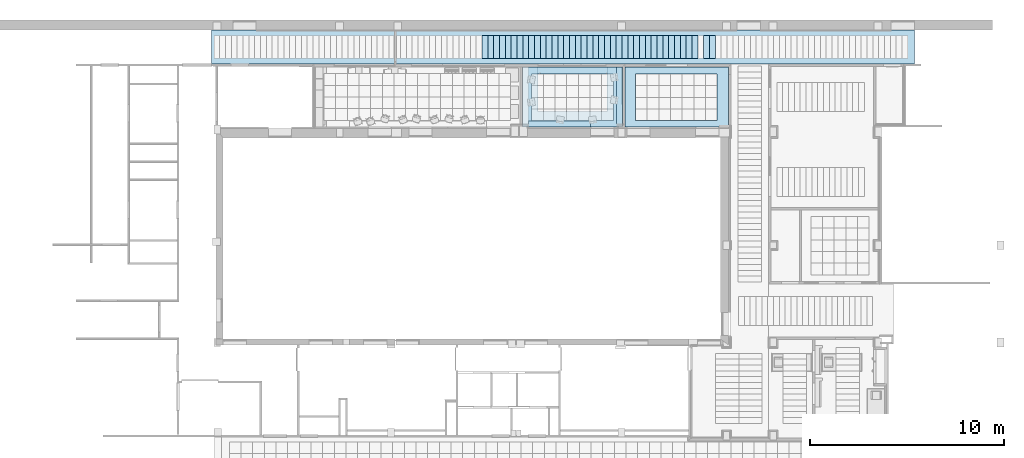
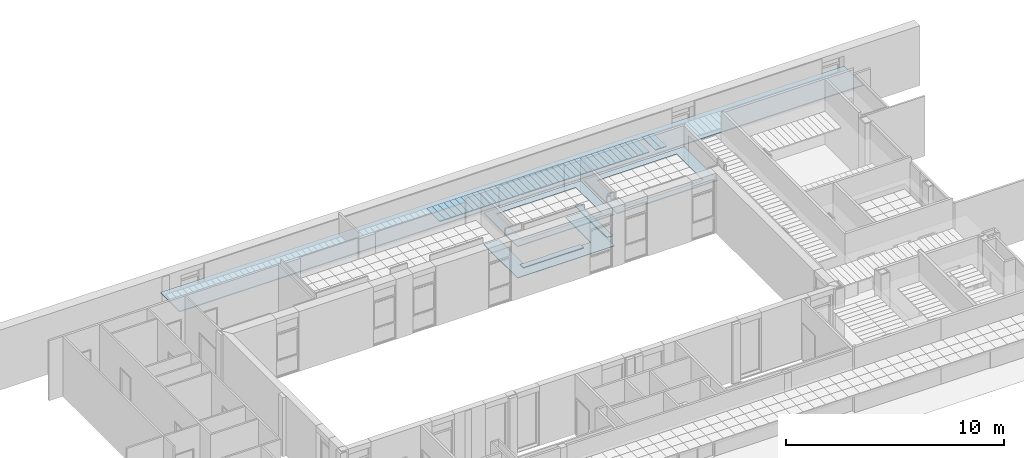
# One storey, part 9 of 60: 45 slabs.
"""IFC2X3 building model written with IfcOpenShell, lengths in millimetres."""

from ifc_helpers import new_model, entity, si_unit, converted_unit, derived_unit, money_unit, direction, frame, origin_with_axes, place, context, subcontext, project, spatial, polyline, outline, extrude, material, layer, layer_set, layer_usage, type_object, element, save


model = new_model("IFC2X3")

# Units and contexts
model_context = context("Model", 3, precision=0.01, world=origin_with_axes(), true_north=direction((0.0, 1.0)))
body_context = subcontext(model_context, "Body", "Model", "MODEL_VIEW")
ifc_project = project(units=[si_unit("LENGTHUNIT", "METRE", prefix="MILLI"), si_unit("AREAUNIT", "SQUARE_METRE"), si_unit("VOLUMEUNIT", "CUBIC_METRE"), converted_unit("PLANEANGLEUNIT", "DEGREE", entity("IfcPlaneAngleMeasure", 0.0174532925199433), si_unit("PLANEANGLEUNIT", "RADIAN"), dimensions=[0, 0, 0, 0, 0, 0, 0]), money_unit("USD"), converted_unit("TIMEUNIT", "Year", entity("IfcTimeMeasure", 31557600.0), si_unit("TIMEUNIT", "SECOND"), dimensions=[0, 0, 1, 0, 0, 0, 0]), si_unit("MASSUNIT", "GRAM", prefix="KILO"), si_unit("THERMODYNAMICTEMPERATUREUNIT", "DEGREE_CELSIUS"), si_unit("LUMINOUSINTENSITYUNIT", "LUMEN"), si_unit("ENERGYUNIT", "JOULE", prefix="MEGA"), derived_unit("THERMALCONDUCTANCEUNIT", [(si_unit("POWERUNIT", "WATT"), 1), (si_unit("LENGTHUNIT", "METRE"), -1), (si_unit("THERMODYNAMICTEMPERATUREUNIT", "KELVIN"), -1)]), derived_unit("SPECIFICHEATCAPACITYUNIT", [(si_unit("ENERGYUNIT", "JOULE"), 1), (si_unit("MASSUNIT", "GRAM", prefix="KILO"), -1), (si_unit("THERMODYNAMICTEMPERATUREUNIT", "KELVIN"), -1)]), derived_unit("MASSDENSITYUNIT", [(si_unit("MASSUNIT", "GRAM", prefix="KILO"), 1), (si_unit("VOLUMEUNIT", "CUBIC_METRE"), -1)])], contexts=[model_context])

# Site, building, storey
site_placement = place(None, origin_with_axes())
site = spatial("IfcSite", under=ifc_project, at=site_placement, Name="Sitio", CompositionType="ELEMENT")
building_placement = place(site_placement, origin_with_axes())
building = spatial("IfcBuilding", under=site, at=building_placement, Name="Construcción", CompositionType="ELEMENT")
storey_placement = place(building_placement, frame((0.0, 0.0, 3650.0), z_axis=(0.0, 0.0, 1.0), x_axis=(1.0, 0.0, 0.0)))
storey = spatial("IfcBuildingStorey", under=building, at=storey_placement, Name="PLANTA 2ª", CompositionType="ELEMENT", Elevation=3650.0)

# Slabs
ifc_material_1 = material(Name="ARQ_ME126_CelRas_Placa_Metallica")
ifc_layer_1 = layer(ifc_material_1, 50.0, ventilated="UNKNOWN")
ifc_layer_set_1 = layer_set([ifc_layer_1], Name="ARQ_ME126_CelRas_Placa_Metallica 50")
ifc_layer_usage_1 = layer_usage(ifc_layer_set_1, "AXIS3", "NEGATIVE", 50.0)
slab_type_1 = type_object("IfcSlabType", Name="ARQ_ME126_CelRas_Placa_Metallica 50", PredefinedType="NOTDEFINED")
slab_1_placement = place(storey_placement, frame((-2670.237082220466, 3586.50452866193, 2500.0), z_axis=(0.0, 0.0, 1.0), x_axis=(1.0, 0.0, 0.0)))
element("IfcSlab", 1, at=slab_1_placement, inside=storey, type_object=slab_type_1, material=ifc_layer_usage_1, Name="SLA - 026", PredefinedType="NOTDEFINED", context=body_context, shape_type="SweptSolid", body=[
    extrude(outline(polyline([(0.0, 0.0), (0.0, -1199.999999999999), (300.0000000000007, -1199.999999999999), (300.0000000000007, 0.0), (0.0, 0.0)])), frame((0.0, 0.0, -50.0), z_axis=(0.0, 0.0, 1.0), x_axis=(1.0, 0.0, 0.0)), (0.0, 0.0, 1.0), 50.0),
])
ifc_layer_usage_2 = layer_usage(ifc_layer_set_1, "AXIS3", "NEGATIVE", 50.0)
slab_2_placement = place(storey_placement, frame((-3570.237082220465, 3586.50452866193, 2500.0), z_axis=(0.0, 0.0, 1.0), x_axis=(1.0, 0.0, 0.0)))
element("IfcSlab", 2, at=slab_2_placement, inside=storey, type_object=slab_type_1, material=ifc_layer_usage_2, Name="SLA - 026", PredefinedType="NOTDEFINED", context=body_context, shape_type="SweptSolid", body=[
    extrude(outline(polyline([(0.0, 0.0), (0.0, -1199.999999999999), (300.0000000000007, -1199.999999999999), (300.0000000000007, 0.0), (0.0, 0.0)])), frame((0.0, 0.0, -50.0), z_axis=(0.0, 0.0, 1.0), x_axis=(1.0, 0.0, 0.0)), (0.0, 0.0, 1.0), 50.0),
])
ifc_layer_usage_3 = layer_usage(ifc_layer_set_1, "AXIS3", "NEGATIVE", 50.0)
slab_3_placement = place(storey_placement, frame((-2970.237082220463, 3586.50452866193, 2500.0), z_axis=(0.0, 0.0, 1.0), x_axis=(1.0, 0.0, 0.0)))
element("IfcSlab", 3, at=slab_3_placement, inside=storey, type_object=slab_type_1, material=ifc_layer_usage_3, Name="SLA - 026", PredefinedType="NOTDEFINED", context=body_context, shape_type="SweptSolid", body=[
    extrude(outline(polyline([(0.0, 0.0), (0.0, -1199.999999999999), (300.0000000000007, -1199.999999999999), (300.0000000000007, 0.0), (0.0, 0.0)])), frame((0.0, 0.0, -50.0), z_axis=(0.0, 0.0, 1.0), x_axis=(1.0, 0.0, 0.0)), (0.0, 0.0, 1.0), 50.0),
])
ifc_layer_usage_4 = layer_usage(ifc_layer_set_1, "AXIS3", "NEGATIVE", 50.0)
slab_4_placement = place(storey_placement, frame((-3870.237082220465, 3586.50452866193, 2500.0), z_axis=(0.0, 0.0, 1.0), x_axis=(1.0, 0.0, 0.0)))
element("IfcSlab", 4, at=slab_4_placement, inside=storey, type_object=slab_type_1, material=ifc_layer_usage_4, Name="SLA - 026", PredefinedType="NOTDEFINED", context=body_context, shape_type="SweptSolid", body=[
    extrude(outline(polyline([(0.0, 0.0), (0.0, -1199.999999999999), (300.0000000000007, -1199.999999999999), (300.0000000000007, 0.0), (0.0, 0.0)])), frame((0.0, 0.0, -50.0), z_axis=(0.0, 0.0, 1.0), x_axis=(1.0, 0.0, 0.0)), (0.0, 0.0, 1.0), 50.0),
])
ifc_layer_usage_5 = layer_usage(ifc_layer_set_1, "AXIS3", "NEGATIVE", 50.0)
slab_5_placement = place(storey_placement, frame((-14370.23708222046, 3586.50452866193, 2500.0), z_axis=(0.0, 0.0, 1.0), x_axis=(1.0, 0.0, 0.0)))
element("IfcSlab", 5, at=slab_5_placement, inside=storey, type_object=slab_type_1, material=ifc_layer_usage_5, Name="SLA - 026", PredefinedType="NOTDEFINED", context=body_context, shape_type="SweptSolid", body=[
    extrude(outline(polyline([(0.0, 0.0), (0.0, -1199.999999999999), (300.0000000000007, -1199.999999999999), (300.0000000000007, 0.0), (0.0, 0.0)])), frame((0.0, 0.0, -50.0), z_axis=(0.0, 0.0, 1.0), x_axis=(1.0, 0.0, 0.0)), (0.0, 0.0, 1.0), 50.0),
])
ifc_layer_usage_6 = layer_usage(ifc_layer_set_1, "AXIS3", "NEGATIVE", 50.0)
slab_6_placement = place(storey_placement, frame((-14070.23708222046, 3586.50452866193, 2500.0), z_axis=(0.0, 0.0, 1.0), x_axis=(1.0, 0.0, 0.0)))
element("IfcSlab", 6, at=slab_6_placement, inside=storey, type_object=slab_type_1, material=ifc_layer_usage_6, Name="SLA - 026", PredefinedType="NOTDEFINED", context=body_context, shape_type="SweptSolid", body=[
    extrude(outline(polyline([(0.0, 0.0), (0.0, -1199.999999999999), (300.0000000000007, -1199.999999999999), (300.0000000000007, 0.0), (0.0, 0.0)])), frame((0.0, 0.0, -50.0), z_axis=(0.0, 0.0, 1.0), x_axis=(1.0, 0.0, 0.0)), (0.0, 0.0, 1.0), 50.0),
])
ifc_layer_usage_7 = layer_usage(ifc_layer_set_1, "AXIS3", "NEGATIVE", 50.0)
slab_7_placement = place(storey_placement, frame((-13770.23708222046, 3586.50452866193, 2500.0), z_axis=(0.0, 0.0, 1.0), x_axis=(1.0, 0.0, 0.0)))
element("IfcSlab", 7, at=slab_7_placement, inside=storey, type_object=slab_type_1, material=ifc_layer_usage_7, Name="SLA - 026", PredefinedType="NOTDEFINED", context=body_context, shape_type="SweptSolid", body=[
    extrude(outline(polyline([(0.0, 0.0), (0.0, -1199.999999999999), (300.0000000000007, -1199.999999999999), (300.0000000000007, 0.0), (0.0, 0.0)])), frame((0.0, 0.0, -50.0), z_axis=(0.0, 0.0, 1.0), x_axis=(1.0, 0.0, 0.0)), (0.0, 0.0, 1.0), 50.0),
])
ifc_layer_usage_8 = layer_usage(ifc_layer_set_1, "AXIS3", "NEGATIVE", 50.0)
slab_8_placement = place(storey_placement, frame((-13470.23708222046, 3586.50452866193, 2500.0), z_axis=(0.0, 0.0, 1.0), x_axis=(1.0, 0.0, 0.0)))
element("IfcSlab", 8, at=slab_8_placement, inside=storey, type_object=slab_type_1, material=ifc_layer_usage_8, Name="SLA - 026", PredefinedType="NOTDEFINED", context=body_context, shape_type="SweptSolid", body=[
    extrude(outline(polyline([(0.0, 0.0), (0.0, -1199.999999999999), (300.0000000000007, -1199.999999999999), (300.0000000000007, 0.0), (0.0, 0.0)])), frame((0.0, 0.0, -50.0), z_axis=(0.0, 0.0, 1.0), x_axis=(1.0, 0.0, 0.0)), (0.0, 0.0, 1.0), 50.0),
])
ifc_layer_usage_9 = layer_usage(ifc_layer_set_1, "AXIS3", "NEGATIVE", 50.0)
slab_9_placement = place(storey_placement, frame((-13170.23708222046, 3586.50452866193, 2500.0), z_axis=(0.0, 0.0, 1.0), x_axis=(1.0, 0.0, 0.0)))
element("IfcSlab", 9, at=slab_9_placement, inside=storey, type_object=slab_type_1, material=ifc_layer_usage_9, Name="SLA - 026", PredefinedType="NOTDEFINED", context=body_context, shape_type="SweptSolid", body=[
    extrude(outline(polyline([(0.0, 0.0), (0.0, -1199.999999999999), (300.0000000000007, -1199.999999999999), (300.0000000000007, 0.0), (0.0, 0.0)])), frame((0.0, 0.0, -50.0), z_axis=(0.0, 0.0, 1.0), x_axis=(1.0, 0.0, 0.0)), (0.0, 0.0, 1.0), 50.0),
])
ifc_layer_usage_10 = layer_usage(ifc_layer_set_1, "AXIS3", "NEGATIVE", 50.0)
slab_10_placement = place(storey_placement, frame((-12870.23708222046, 3586.50452866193, 2500.0), z_axis=(0.0, 0.0, 1.0), x_axis=(1.0, 0.0, 0.0)))
element("IfcSlab", 10, at=slab_10_placement, inside=storey, type_object=slab_type_1, material=ifc_layer_usage_10, Name="SLA - 026", PredefinedType="NOTDEFINED", context=body_context, shape_type="SweptSolid", body=[
    extrude(outline(polyline([(0.0, 0.0), (0.0, -1199.999999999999), (300.0000000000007, -1199.999999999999), (300.0000000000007, 0.0), (0.0, 0.0)])), frame((0.0, 0.0, -50.0), z_axis=(0.0, 0.0, 1.0), x_axis=(1.0, 0.0, 0.0)), (0.0, 0.0, 1.0), 50.0),
])
ifc_layer_usage_11 = layer_usage(ifc_layer_set_1, "AXIS3", "NEGATIVE", 50.0)
slab_11_placement = place(storey_placement, frame((-12570.23708222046, 3586.50452866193, 2500.0), z_axis=(0.0, 0.0, 1.0), x_axis=(1.0, 0.0, 0.0)))
element("IfcSlab", 11, at=slab_11_placement, inside=storey, type_object=slab_type_1, material=ifc_layer_usage_11, Name="SLA - 026", PredefinedType="NOTDEFINED", context=body_context, shape_type="SweptSolid", body=[
    extrude(outline(polyline([(0.0, 0.0), (0.0, -1199.999999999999), (300.0000000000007, -1199.999999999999), (300.0000000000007, 0.0), (0.0, 0.0)])), frame((0.0, 0.0, -50.0), z_axis=(0.0, 0.0, 1.0), x_axis=(1.0, 0.0, 0.0)), (0.0, 0.0, 1.0), 50.0),
])
ifc_layer_usage_12 = layer_usage(ifc_layer_set_1, "AXIS3", "NEGATIVE", 50.0)
slab_12_placement = place(storey_placement, frame((-12270.23708222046, 3586.50452866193, 2500.0), z_axis=(0.0, 0.0, 1.0), x_axis=(1.0, 0.0, 0.0)))
element("IfcSlab", 12, at=slab_12_placement, inside=storey, type_object=slab_type_1, material=ifc_layer_usage_12, Name="SLA - 026", PredefinedType="NOTDEFINED", context=body_context, shape_type="SweptSolid", body=[
    extrude(outline(polyline([(0.0, 0.0), (0.0, -1199.999999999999), (300.0000000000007, -1199.999999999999), (300.0000000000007, 0.0), (0.0, 0.0)])), frame((0.0, 0.0, -50.0), z_axis=(0.0, 0.0, 1.0), x_axis=(1.0, 0.0, 0.0)), (0.0, 0.0, 1.0), 50.0),
])
ifc_layer_usage_13 = layer_usage(ifc_layer_set_1, "AXIS3", "NEGATIVE", 50.0)
slab_13_placement = place(storey_placement, frame((-11970.23708222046, 3586.50452866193, 2500.0), z_axis=(0.0, 0.0, 1.0), x_axis=(1.0, 0.0, 0.0)))
element("IfcSlab", 13, at=slab_13_placement, inside=storey, type_object=slab_type_1, material=ifc_layer_usage_13, Name="SLA - 026", PredefinedType="NOTDEFINED", context=body_context, shape_type="SweptSolid", body=[
    extrude(outline(polyline([(0.0, 0.0), (0.0, -1199.999999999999), (300.0000000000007, -1199.999999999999), (300.0000000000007, 0.0), (0.0, 0.0)])), frame((0.0, 0.0, -50.0), z_axis=(0.0, 0.0, 1.0), x_axis=(1.0, 0.0, 0.0)), (0.0, 0.0, 1.0), 50.0),
])
ifc_layer_usage_14 = layer_usage(ifc_layer_set_1, "AXIS3", "NEGATIVE", 50.0)
slab_14_placement = place(storey_placement, frame((-11670.23708222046, 3586.50452866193, 2500.0), z_axis=(0.0, 0.0, 1.0), x_axis=(1.0, 0.0, 0.0)))
element("IfcSlab", 14, at=slab_14_placement, inside=storey, type_object=slab_type_1, material=ifc_layer_usage_14, Name="SLA - 026", PredefinedType="NOTDEFINED", context=body_context, shape_type="SweptSolid", body=[
    extrude(outline(polyline([(0.0, 0.0), (0.0, -1199.999999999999), (300.0000000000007, -1199.999999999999), (300.0000000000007, 0.0), (0.0, 0.0)])), frame((0.0, 0.0, -50.0), z_axis=(0.0, 0.0, 1.0), x_axis=(1.0, 0.0, 0.0)), (0.0, 0.0, 1.0), 50.0),
])
ifc_layer_usage_15 = layer_usage(ifc_layer_set_1, "AXIS3", "NEGATIVE", 50.0)
slab_15_placement = place(storey_placement, frame((-11070.23708222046, 3586.50452866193, 2500.0), z_axis=(0.0, 0.0, 1.0), x_axis=(1.0, 0.0, 0.0)))
element("IfcSlab", 15, at=slab_15_placement, inside=storey, type_object=slab_type_1, material=ifc_layer_usage_15, Name="SLA - 026", PredefinedType="NOTDEFINED", context=body_context, shape_type="SweptSolid", body=[
    extrude(outline(polyline([(0.0, 0.0), (0.0, -1199.999999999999), (300.0000000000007, -1199.999999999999), (300.0000000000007, 0.0), (0.0, 0.0)])), frame((0.0, 0.0, -50.0), z_axis=(0.0, 0.0, 1.0), x_axis=(1.0, 0.0, 0.0)), (0.0, 0.0, 1.0), 50.0),
])
ifc_layer_usage_16 = layer_usage(ifc_layer_set_1, "AXIS3", "NEGATIVE", 50.0)
slab_16_placement = place(storey_placement, frame((-11370.23708222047, 3586.50452866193, 2500.0), z_axis=(0.0, 0.0, 1.0), x_axis=(1.0, 0.0, 0.0)))
element("IfcSlab", 16, at=slab_16_placement, inside=storey, type_object=slab_type_1, material=ifc_layer_usage_16, Name="SLA - 026", PredefinedType="NOTDEFINED", context=body_context, shape_type="SweptSolid", body=[
    extrude(outline(polyline([(0.0, 0.0), (0.0, -1199.999999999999), (300.0000000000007, -1199.999999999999), (300.0000000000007, 0.0), (0.0, 0.0)])), frame((0.0, 0.0, -50.0), z_axis=(0.0, 0.0, 1.0), x_axis=(1.0, 0.0, 0.0)), (0.0, 0.0, 1.0), 50.0),
])
ifc_layer_usage_17 = layer_usage(ifc_layer_set_1, "AXIS3", "NEGATIVE", 50.0)
slab_17_placement = place(storey_placement, frame((-10770.23708222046, 3586.50452866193, 2500.0), z_axis=(0.0, 0.0, 1.0), x_axis=(1.0, 0.0, 0.0)))
element("IfcSlab", 17, at=slab_17_placement, inside=storey, type_object=slab_type_1, material=ifc_layer_usage_17, Name="SLA - 026", PredefinedType="NOTDEFINED", context=body_context, shape_type="SweptSolid", body=[
    extrude(outline(polyline([(0.0, 0.0), (0.0, -1199.999999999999), (300.0000000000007, -1199.999999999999), (300.0000000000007, 0.0), (0.0, 0.0)])), frame((0.0, 0.0, -50.0), z_axis=(0.0, 0.0, 1.0), x_axis=(1.0, 0.0, 0.0)), (0.0, 0.0, 1.0), 50.0),
])
ifc_layer_usage_18 = layer_usage(ifc_layer_set_1, "AXIS3", "NEGATIVE", 50.0)
slab_18_placement = place(storey_placement, frame((-10170.23708222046, 3586.50452866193, 2500.0), z_axis=(0.0, 0.0, 1.0), x_axis=(1.0, 0.0, 0.0)))
element("IfcSlab", 18, at=slab_18_placement, inside=storey, type_object=slab_type_1, material=ifc_layer_usage_18, Name="SLA - 026", PredefinedType="NOTDEFINED", context=body_context, shape_type="SweptSolid", body=[
    extrude(outline(polyline([(0.0, 0.0), (0.0, -1199.999999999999), (300.0000000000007, -1199.999999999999), (300.0000000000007, 0.0), (0.0, 0.0)])), frame((0.0, 0.0, -50.0), z_axis=(0.0, 0.0, 1.0), x_axis=(1.0, 0.0, 0.0)), (0.0, 0.0, 1.0), 50.0),
])
ifc_layer_usage_19 = layer_usage(ifc_layer_set_1, "AXIS3", "NEGATIVE", 50.0)
slab_19_placement = place(storey_placement, frame((-10470.23708222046, 3586.50452866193, 2500.0), z_axis=(0.0, 0.0, 1.0), x_axis=(1.0, 0.0, 0.0)))
element("IfcSlab", 19, at=slab_19_placement, inside=storey, type_object=slab_type_1, material=ifc_layer_usage_19, Name="SLA - 026", PredefinedType="NOTDEFINED", context=body_context, shape_type="SweptSolid", body=[
    extrude(outline(polyline([(0.0, 0.0), (0.0, -1199.999999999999), (300.0000000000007, -1199.999999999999), (300.0000000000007, 0.0), (0.0, 0.0)])), frame((0.0, 0.0, -50.0), z_axis=(0.0, 0.0, 1.0), x_axis=(1.0, 0.0, 0.0)), (0.0, 0.0, 1.0), 50.0),
])
ifc_layer_usage_20 = layer_usage(ifc_layer_set_1, "AXIS3", "NEGATIVE", 50.0)
slab_20_placement = place(storey_placement, frame((-9870.237082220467, 3586.50452866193, 2500.0), z_axis=(0.0, 0.0, 1.0), x_axis=(1.0, 0.0, 0.0)))
element("IfcSlab", 20, at=slab_20_placement, inside=storey, type_object=slab_type_1, material=ifc_layer_usage_20, Name="SLA - 026", PredefinedType="NOTDEFINED", context=body_context, shape_type="SweptSolid", body=[
    extrude(outline(polyline([(0.0, 0.0), (0.0, -1199.999999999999), (300.0000000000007, -1199.999999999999), (300.0000000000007, 0.0), (0.0, 0.0)])), frame((0.0, 0.0, -50.0), z_axis=(0.0, 0.0, 1.0), x_axis=(1.0, 0.0, 0.0)), (0.0, 0.0, 1.0), 50.0),
])
ifc_layer_usage_21 = layer_usage(ifc_layer_set_1, "AXIS3", "NEGATIVE", 50.0)
slab_21_placement = place(storey_placement, frame((-9570.237082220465, 3586.50452866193, 2500.0), z_axis=(0.0, 0.0, 1.0), x_axis=(1.0, 0.0, 0.0)))
element("IfcSlab", 21, at=slab_21_placement, inside=storey, type_object=slab_type_1, material=ifc_layer_usage_21, Name="SLA - 026", PredefinedType="NOTDEFINED", context=body_context, shape_type="SweptSolid", body=[
    extrude(outline(polyline([(0.0, 0.0), (0.0, -1199.999999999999), (300.0000000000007, -1199.999999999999), (300.0000000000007, 0.0), (0.0, 0.0)])), frame((0.0, 0.0, -50.0), z_axis=(0.0, 0.0, 1.0), x_axis=(1.0, 0.0, 0.0)), (0.0, 0.0, 1.0), 50.0),
])
ifc_layer_usage_22 = layer_usage(ifc_layer_set_1, "AXIS3", "NEGATIVE", 50.0)
slab_22_placement = place(storey_placement, frame((-9270.237082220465, 3586.50452866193, 2500.0), z_axis=(0.0, 0.0, 1.0), x_axis=(1.0, 0.0, 0.0)))
element("IfcSlab", 22, at=slab_22_placement, inside=storey, type_object=slab_type_1, material=ifc_layer_usage_22, Name="SLA - 026", PredefinedType="NOTDEFINED", context=body_context, shape_type="SweptSolid", body=[
    extrude(outline(polyline([(0.0, 0.0), (0.0, -1199.999999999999), (300.0000000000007, -1199.999999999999), (300.0000000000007, 0.0), (0.0, 0.0)])), frame((0.0, 0.0, -50.0), z_axis=(0.0, 0.0, 1.0), x_axis=(1.0, 0.0, 0.0)), (0.0, 0.0, 1.0), 50.0),
])
ifc_layer_usage_23 = layer_usage(ifc_layer_set_1, "AXIS3", "NEGATIVE", 50.0)
slab_23_placement = place(storey_placement, frame((-8670.237082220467, 3586.50452866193, 2500.0), z_axis=(0.0, 0.0, 1.0), x_axis=(1.0, 0.0, 0.0)))
element("IfcSlab", 23, at=slab_23_placement, inside=storey, type_object=slab_type_1, material=ifc_layer_usage_23, Name="SLA - 026", PredefinedType="NOTDEFINED", context=body_context, shape_type="SweptSolid", body=[
    extrude(outline(polyline([(0.0, 0.0), (0.0, -1199.999999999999), (300.0000000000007, -1199.999999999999), (300.0000000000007, 0.0), (0.0, 0.0)])), frame((0.0, 0.0, -50.0), z_axis=(0.0, 0.0, 1.0), x_axis=(1.0, 0.0, 0.0)), (0.0, 0.0, 1.0), 50.0),
])
ifc_layer_usage_24 = layer_usage(ifc_layer_set_1, "AXIS3", "NEGATIVE", 50.0)
slab_24_placement = place(storey_placement, frame((-8970.237082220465, 3586.50452866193, 2500.0), z_axis=(0.0, 0.0, 1.0), x_axis=(1.0, 0.0, 0.0)))
element("IfcSlab", 24, at=slab_24_placement, inside=storey, type_object=slab_type_1, material=ifc_layer_usage_24, Name="SLA - 026", PredefinedType="NOTDEFINED", context=body_context, shape_type="SweptSolid", body=[
    extrude(outline(polyline([(0.0, 0.0), (0.0, -1199.999999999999), (300.0000000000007, -1199.999999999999), (300.0000000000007, 0.0), (0.0, 0.0)])), frame((0.0, 0.0, -50.0), z_axis=(0.0, 0.0, 1.0), x_axis=(1.0, 0.0, 0.0)), (0.0, 0.0, 1.0), 50.0),
])
ifc_layer_usage_25 = layer_usage(ifc_layer_set_1, "AXIS3", "NEGATIVE", 50.0)
slab_25_placement = place(storey_placement, frame((-8370.237082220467, 3586.50452866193, 2500.0), z_axis=(0.0, 0.0, 1.0), x_axis=(1.0, 0.0, 0.0)))
element("IfcSlab", 25, at=slab_25_placement, inside=storey, type_object=slab_type_1, material=ifc_layer_usage_25, Name="SLA - 026", PredefinedType="NOTDEFINED", context=body_context, shape_type="SweptSolid", body=[
    extrude(outline(polyline([(0.0, 0.0), (0.0, -1199.999999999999), (300.0000000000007, -1199.999999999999), (300.0000000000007, 0.0), (0.0, 0.0)])), frame((0.0, 0.0, -50.0), z_axis=(0.0, 0.0, 1.0), x_axis=(1.0, 0.0, 0.0)), (0.0, 0.0, 1.0), 50.0),
])
ifc_layer_usage_26 = layer_usage(ifc_layer_set_1, "AXIS3", "NEGATIVE", 50.0)
slab_26_placement = place(storey_placement, frame((-8070.237082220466, 3586.50452866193, 2500.0), z_axis=(0.0, 0.0, 1.0), x_axis=(1.0, 0.0, 0.0)))
element("IfcSlab", 26, at=slab_26_placement, inside=storey, type_object=slab_type_1, material=ifc_layer_usage_26, Name="SLA - 026", PredefinedType="NOTDEFINED", context=body_context, shape_type="SweptSolid", body=[
    extrude(outline(polyline([(0.0, 0.0), (0.0, -1199.999999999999), (300.0000000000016, -1199.999999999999), (300.0000000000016, 0.0), (0.0, 0.0)])), frame((0.0, 0.0, -50.0), z_axis=(0.0, 0.0, 1.0), x_axis=(1.0, 0.0, 0.0)), (0.0, 0.0, 1.0), 50.0),
])
ifc_layer_usage_27 = layer_usage(ifc_layer_set_1, "AXIS3", "NEGATIVE", 50.0)
slab_27_placement = place(storey_placement, frame((-7770.237082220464, 3586.50452866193, 2500.0), z_axis=(0.0, 0.0, 1.0), x_axis=(1.0, 0.0, 0.0)))
element("IfcSlab", 27, at=slab_27_placement, inside=storey, type_object=slab_type_1, material=ifc_layer_usage_27, Name="SLA - 026", PredefinedType="NOTDEFINED", context=body_context, shape_type="SweptSolid", body=[
    extrude(outline(polyline([(0.0, 0.0), (0.0, -1199.999999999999), (300.0000000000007, -1199.999999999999), (300.0000000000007, 0.0), (0.0, 0.0)])), frame((0.0, 0.0, -50.0), z_axis=(0.0, 0.0, 1.0), x_axis=(1.0, 0.0, 0.0)), (0.0, 0.0, 1.0), 50.0),
])
ifc_layer_usage_28 = layer_usage(ifc_layer_set_1, "AXIS3", "NEGATIVE", 50.0)
slab_28_placement = place(storey_placement, frame((-7470.237082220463, 3586.50452866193, 2500.0), z_axis=(0.0, 0.0, 1.0), x_axis=(1.0, 0.0, 0.0)))
element("IfcSlab", 28, at=slab_28_placement, inside=storey, type_object=slab_type_1, material=ifc_layer_usage_28, Name="SLA - 026", PredefinedType="NOTDEFINED", context=body_context, shape_type="SweptSolid", body=[
    extrude(outline(polyline([(0.0, 0.0), (0.0, -1199.999999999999), (300.0000000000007, -1199.999999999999), (300.0000000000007, 0.0), (0.0, 0.0)])), frame((0.0, 0.0, -50.0), z_axis=(0.0, 0.0, 1.0), x_axis=(1.0, 0.0, 0.0)), (0.0, 0.0, 1.0), 50.0),
])
ifc_layer_usage_29 = layer_usage(ifc_layer_set_1, "AXIS3", "NEGATIVE", 50.0)
slab_29_placement = place(storey_placement, frame((-7170.237082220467, 3586.50452866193, 2500.0), z_axis=(0.0, 0.0, 1.0), x_axis=(1.0, 0.0, 0.0)))
element("IfcSlab", 29, at=slab_29_placement, inside=storey, type_object=slab_type_1, material=ifc_layer_usage_29, Name="SLA - 026", PredefinedType="NOTDEFINED", context=body_context, shape_type="SweptSolid", body=[
    extrude(outline(polyline([(0.0, 0.0), (0.0, -1199.999999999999), (300.0000000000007, -1199.999999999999), (300.0000000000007, 0.0), (0.0, 0.0)])), frame((0.0, 0.0, -50.0), z_axis=(0.0, 0.0, 1.0), x_axis=(1.0, 0.0, 0.0)), (0.0, 0.0, 1.0), 50.0),
])
ifc_layer_usage_30 = layer_usage(ifc_layer_set_1, "AXIS3", "NEGATIVE", 50.0)
slab_30_placement = place(storey_placement, frame((-6870.237082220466, 3586.50452866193, 2500.0), z_axis=(0.0, 0.0, 1.0), x_axis=(1.0, 0.0, 0.0)))
element("IfcSlab", 30, at=slab_30_placement, inside=storey, type_object=slab_type_1, material=ifc_layer_usage_30, Name="SLA - 026", PredefinedType="NOTDEFINED", context=body_context, shape_type="SweptSolid", body=[
    extrude(outline(polyline([(0.0, 0.0), (0.0, -1199.999999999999), (300.0000000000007, -1199.999999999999), (300.0000000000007, 0.0), (0.0, 0.0)])), frame((0.0, 0.0, -50.0), z_axis=(0.0, 0.0, 1.0), x_axis=(1.0, 0.0, 0.0)), (0.0, 0.0, 1.0), 50.0),
])
ifc_layer_usage_31 = layer_usage(ifc_layer_set_1, "AXIS3", "NEGATIVE", 50.0)
slab_31_placement = place(storey_placement, frame((-6570.237082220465, 3586.50452866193, 2500.0), z_axis=(0.0, 0.0, 1.0), x_axis=(1.0, 0.0, 0.0)))
element("IfcSlab", 31, at=slab_31_placement, inside=storey, type_object=slab_type_1, material=ifc_layer_usage_31, Name="SLA - 026", PredefinedType="NOTDEFINED", context=body_context, shape_type="SweptSolid", body=[
    extrude(outline(polyline([(0.0, 0.0), (0.0, -1199.999999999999), (300.0000000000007, -1199.999999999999), (300.0000000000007, 0.0), (0.0, 0.0)])), frame((0.0, 0.0, -50.0), z_axis=(0.0, 0.0, 1.0), x_axis=(1.0, 0.0, 0.0)), (0.0, 0.0, 1.0), 50.0),
])
ifc_layer_usage_32 = layer_usage(ifc_layer_set_1, "AXIS3", "NEGATIVE", 50.0)
slab_32_placement = place(storey_placement, frame((-6270.237082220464, 3586.50452866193, 2500.0), z_axis=(0.0, 0.0, 1.0), x_axis=(1.0, 0.0, 0.0)))
element("IfcSlab", 32, at=slab_32_placement, inside=storey, type_object=slab_type_1, material=ifc_layer_usage_32, Name="SLA - 026", PredefinedType="NOTDEFINED", context=body_context, shape_type="SweptSolid", body=[
    extrude(outline(polyline([(0.0, 0.0), (0.0, -1199.999999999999), (300.0000000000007, -1199.999999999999), (300.0000000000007, 0.0), (0.0, 0.0)])), frame((0.0, 0.0, -50.0), z_axis=(0.0, 0.0, 1.0), x_axis=(1.0, 0.0, 0.0)), (0.0, 0.0, 1.0), 50.0),
])
ifc_layer_usage_33 = layer_usage(ifc_layer_set_1, "AXIS3", "NEGATIVE", 50.0)
slab_33_placement = place(storey_placement, frame((-5970.237082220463, 3586.50452866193, 2500.0), z_axis=(0.0, 0.0, 1.0), x_axis=(1.0, 0.0, 0.0)))
element("IfcSlab", 33, at=slab_33_placement, inside=storey, type_object=slab_type_1, material=ifc_layer_usage_33, Name="SLA - 026", PredefinedType="NOTDEFINED", context=body_context, shape_type="SweptSolid", body=[
    extrude(outline(polyline([(0.0, 0.0), (0.0, -1199.999999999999), (300.0000000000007, -1199.999999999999), (300.0000000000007, 0.0), (0.0, 0.0)])), frame((0.0, 0.0, -50.0), z_axis=(0.0, 0.0, 1.0), x_axis=(1.0, 0.0, 0.0)), (0.0, 0.0, 1.0), 50.0),
])
ifc_layer_usage_34 = layer_usage(ifc_layer_set_1, "AXIS3", "NEGATIVE", 50.0)
slab_34_placement = place(storey_placement, frame((-5370.237082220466, 3586.50452866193, 2500.0), z_axis=(0.0, 0.0, 1.0), x_axis=(1.0, 0.0, 0.0)))
element("IfcSlab", 34, at=slab_34_placement, inside=storey, type_object=slab_type_1, material=ifc_layer_usage_34, Name="SLA - 026", PredefinedType="NOTDEFINED", context=body_context, shape_type="SweptSolid", body=[
    extrude(outline(polyline([(0.0, 0.0), (0.0, -1199.999999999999), (300.0000000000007, -1199.999999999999), (300.0000000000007, 0.0), (0.0, 0.0)])), frame((0.0, 0.0, -50.0), z_axis=(0.0, 0.0, 1.0), x_axis=(1.0, 0.0, 0.0)), (0.0, 0.0, 1.0), 50.0),
])
ifc_layer_usage_35 = layer_usage(ifc_layer_set_1, "AXIS3", "NEGATIVE", 50.0)
slab_35_placement = place(storey_placement, frame((-5070.237082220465, 3586.50452866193, 2500.0), z_axis=(0.0, 0.0, 1.0), x_axis=(1.0, 0.0, 0.0)))
element("IfcSlab", 35, at=slab_35_placement, inside=storey, type_object=slab_type_1, material=ifc_layer_usage_35, Name="SLA - 026", PredefinedType="NOTDEFINED", context=body_context, shape_type="SweptSolid", body=[
    extrude(outline(polyline([(0.0, 0.0), (0.0, -1199.999999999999), (300.0000000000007, -1199.999999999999), (300.0000000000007, 0.0), (0.0, 0.0)])), frame((0.0, 0.0, -50.0), z_axis=(0.0, 0.0, 1.0), x_axis=(1.0, 0.0, 0.0)), (0.0, 0.0, 1.0), 50.0),
])
ifc_layer_usage_36 = layer_usage(ifc_layer_set_1, "AXIS3", "NEGATIVE", 50.0)
slab_36_placement = place(storey_placement, frame((-5670.237082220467, 3586.50452866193, 2500.0), z_axis=(0.0, 0.0, 1.0), x_axis=(1.0, 0.0, 0.0)))
element("IfcSlab", 36, at=slab_36_placement, inside=storey, type_object=slab_type_1, material=ifc_layer_usage_36, Name="SLA - 026", PredefinedType="NOTDEFINED", context=body_context, shape_type="SweptSolid", body=[
    extrude(outline(polyline([(0.0, 0.0), (0.0, -1199.999999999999), (300.0000000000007, -1199.999999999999), (300.0000000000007, 0.0), (0.0, 0.0)])), frame((0.0, 0.0, -50.0), z_axis=(0.0, 0.0, 1.0), x_axis=(1.0, 0.0, 0.0)), (0.0, 0.0, 1.0), 50.0),
])
ifc_layer_usage_37 = layer_usage(ifc_layer_set_1, "AXIS3", "NEGATIVE", 50.0)
slab_37_placement = place(storey_placement, frame((-4770.237082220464, 3586.50452866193, 2500.0), z_axis=(0.0, 0.0, 1.0), x_axis=(1.0, 0.0, 0.0)))
element("IfcSlab", 37, at=slab_37_placement, inside=storey, type_object=slab_type_1, material=ifc_layer_usage_37, Name="SLA - 026", PredefinedType="NOTDEFINED", context=body_context, shape_type="SweptSolid", body=[
    extrude(outline(polyline([(0.0, 0.0), (0.0, -1199.999999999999), (300.0000000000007, -1199.999999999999), (300.0000000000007, 0.0), (0.0, 0.0)])), frame((0.0, 0.0, -50.0), z_axis=(0.0, 0.0, 1.0), x_axis=(1.0, 0.0, 0.0)), (0.0, 0.0, 1.0), 50.0),
])
ifc_layer_usage_38 = layer_usage(ifc_layer_set_1, "AXIS3", "NEGATIVE", 50.0)
slab_38_placement = place(storey_placement, frame((-4470.237082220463, 3586.50452866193, 2500.0), z_axis=(0.0, 0.0, 1.0), x_axis=(1.0, 0.0, 0.0)))
element("IfcSlab", 38, at=slab_38_placement, inside=storey, type_object=slab_type_1, material=ifc_layer_usage_38, Name="SLA - 026", PredefinedType="NOTDEFINED", context=body_context, shape_type="SweptSolid", body=[
    extrude(outline(polyline([(0.0, 0.0), (0.0, -1199.999999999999), (300.0000000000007, -1199.999999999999), (300.0000000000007, 0.0), (0.0, 0.0)])), frame((0.0, 0.0, -50.0), z_axis=(0.0, 0.0, 1.0), x_axis=(1.0, 0.0, 0.0)), (0.0, 0.0, 1.0), 50.0),
])
ifc_layer_usage_39 = layer_usage(ifc_layer_set_1, "AXIS3", "NEGATIVE", 50.0)
slab_39_placement = place(storey_placement, frame((-4170.237082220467, 3586.50452866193, 2500.0), z_axis=(0.0, 0.0, 1.0), x_axis=(1.0, 0.0, 0.0)))
element("IfcSlab", 39, at=slab_39_placement, inside=storey, type_object=slab_type_1, material=ifc_layer_usage_39, Name="SLA - 026", PredefinedType="NOTDEFINED", context=body_context, shape_type="SweptSolid", body=[
    extrude(outline(polyline([(0.0, 0.0), (0.0, -1199.999999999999), (300.0000000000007, -1199.999999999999), (300.0000000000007, 0.0), (0.0, 0.0)])), frame((0.0, 0.0, -50.0), z_axis=(0.0, 0.0, 1.0), x_axis=(1.0, 0.0, 0.0)), (0.0, 0.0, 1.0), 50.0),
])
ifc_material_2 = material(Name="ARQ_FU091_HPL")
ifc_layer_2 = layer(ifc_material_2, 30.0, ventilated="UNKNOWN")
ifc_layer_set_2 = layer_set([ifc_layer_2], Name="ARQ_FU091_HPL 30")
ifc_layer_usage_40 = layer_usage(ifc_layer_set_2, "AXIS3", "NEGATIVE", 30.0)
slab_type_2 = type_object("IfcSlabType", Name="ARQ_FU091_HPL 30", PredefinedType="NOTDEFINED")
slab_40_placement = place(storey_placement, frame((-11970.85958904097, -829.8175796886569, 1200.000000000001), z_axis=(0.0, 0.0, 1.0), x_axis=(1.0, 0.0, 0.0)))
element("IfcSlab", 40, at=slab_40_placement, inside=storey, type_object=slab_type_2, material=ifc_layer_usage_40, Name="SLA - 011", PredefinedType="NOTDEFINED", context=body_context, shape_type="SweptSolid", body=[
    extrude(outline(polyline([(0.0, 0.0), (0.0, -299.1582440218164), (3188.928233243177, -299.158243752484), (3188.928233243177, 14.25841233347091), (0.0, 0.0)])), frame((0.0, 0.0, -30.0), z_axis=(0.0, 0.0, 1.0), x_axis=(1.0, 0.0, 0.0)), (0.0, 0.0, 1.0), 30.0),
])
ifc_layer_usage_41 = layer_usage(ifc_layer_set_2, "AXIS3", "NEGATIVE", 30.0)
slab_41_placement = place(storey_placement, frame((-7155.107268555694, 1963.554870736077, 1200.000000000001), z_axis=(0.0, 0.0, 1.0), x_axis=(1.0, 0.0, 0.0)))
element("IfcSlab", 41, at=slab_41_placement, inside=storey, type_object=slab_type_2, material=ifc_layer_usage_41, Name="SLA - 011", PredefinedType="NOTDEFINED", context=body_context, shape_type="SweptSolid", body=[
    extrude(outline(polyline([(0.0, 0.0), (-299.1582440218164, 0.0), (-299.158243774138, -2932.530856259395), (0.0, -2932.530856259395), (0.0, 0.0)])), frame((0.0, 0.0, -30.0), z_axis=(0.0, 0.0, 1.0), x_axis=(1.0, 0.0, 0.0)), (0.0, 0.0, 1.0), 30.0),
])
ifc_layer_usage_42 = layer_usage(ifc_layer_set_2, "AXIS3", "NEGATIVE", 30.0)
slab_42_placement = place(storey_placement, frame((-12282.83549084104, 1963.554870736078, 730.0), z_axis=(0.0, 0.0, 1.0), x_axis=(1.0, 0.0, 0.0)))
element("IfcSlab", 42, at=slab_42_placement, inside=storey, type_object=slab_type_2, material=ifc_layer_usage_42, Name="SLA - 028", PredefinedType="NOTDEFINED", context=body_context, shape_type="SweptSolid", body=[
    extrude(outline(polyline([(0.0, 0.0), (0.0, -3092.530694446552), (5128.423916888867, -3092.530694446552), (5114.977297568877, 0.0), (4327.728222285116, 0.0), (4327.728222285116, -2292.530694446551), (800.0000002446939, -2292.53069444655), (800.000000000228, 0.0), (0.0, 0.0)])), frame((0.0, 0.0, -30.0), z_axis=(0.0, 0.0, 1.0), x_axis=(1.0, 0.0, 0.0)), (0.0, 0.0, 1.0), 30.0),
])
ifc_material_3 = material(Name="ARQ_CG064_CelRas_Guix_Continu")
ifc_layer_3 = layer(ifc_material_3, 53.0, ventilated="UNKNOWN")
ifc_layer_set_3 = layer_set([ifc_layer_3], Name="ARQ_CG064_CelRas_Guix_Continu 53")
ifc_layer_usage_43 = layer_usage(ifc_layer_set_3, "AXIS3", "NEGATIVE", 53.0)
slab_type_3 = type_object("IfcSlabType", Name="ARQ_CG064_CelRas_Guix_Continu 53", PredefinedType="NOTDEFINED")
slab_43_placement = place(storey_placement, frame((-28277.40047219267, 2109.554870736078, 2500.0), z_axis=(0.0, 0.0, 1.0), x_axis=(1.0, 0.0, 0.0)))
element("IfcSlab", 43, at=slab_43_placement, inside=storey, type_object=slab_type_3, material=ifc_layer_usage_43, Name="SLA - 013", PredefinedType="NOTDEFINED", context=body_context, shape_type="SweptSolid", body=[
    extrude(outline(polyline([(0.0, 0.0), (36156.9702176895, 0.0), (36156.9702176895, 1753.899315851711), (0.0, 1753.899315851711), (0.0, 0.0)])), frame((0.0, 0.0, -53.0), z_axis=(0.0, 0.0, 1.0), x_axis=(1.0, 0.0, 0.0)), (0.0, 0.0, 1.0), 53.0),
])
ifc_layer_usage_44 = layer_usage(ifc_layer_set_3, "AXIS3", "NEGATIVE", 53.0)
slab_44_placement = place(storey_placement, frame((-12282.83549084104, -1128.975823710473, 2500.0), z_axis=(0.0, 0.0, 1.0), x_axis=(1.0, 0.0, 0.0)))
element("IfcSlab", 44, at=slab_44_placement, inside=storey, type_object=slab_type_3, material=ifc_layer_usage_44, Name="SLA - 013", PredefinedType="NOTDEFINED", context=body_context, shape_type="SweptSolid", body=[
    extrude(outline(polyline([(0.0, 0.0), (5127.728222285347, 0.0), (5127.728222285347, 3092.530694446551), (0.0, 3092.530694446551), (0.0, 0.0)]), holes=[polyline([(462.728222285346, 2728.229616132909), (4662.728222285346, 2728.229616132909), (4662.728222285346, 328.2296161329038), (462.728222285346, 328.2296161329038), (462.728222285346, 2728.229616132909)])]), frame((0.0, 0.0, -53.0), z_axis=(0.0, 0.0, 1.0), x_axis=(1.0, 0.0, 0.0)), (0.0, 0.0, 1.0), 53.0),
])
ifc_layer_usage_45 = layer_usage(ifc_layer_set_3, "AXIS3", "NEGATIVE", 53.0)
slab_45_placement = place(storey_placement, frame((-7021.107268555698, -1128.975823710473, 2500.0), z_axis=(0.0, 0.0, 1.0), x_axis=(1.0, 0.0, 0.0)))
element("IfcSlab", 45, at=slab_45_placement, inside=storey, type_object=slab_type_3, material=ifc_layer_usage_45, Name="SLA - 013", PredefinedType="NOTDEFINED", context=body_context, shape_type="SweptSolid", body=[
    extrude(outline(polyline([(0.0, 0.0), (5330.998263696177, 0.0), (5330.998263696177, 3092.530694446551), (0.0, 3092.530694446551), (0.0, 0.0)]), holes=[polyline([(540.6141179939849, 2728.229616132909), (4740.614117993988, 2728.229616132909), (4740.614117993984, 328.2296161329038), (540.6141179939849, 328.2296161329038), (540.6141179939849, 2728.229616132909)])]), frame((0.0, 0.0, -53.0), z_axis=(0.0, 0.0, 1.0), x_axis=(1.0, 0.0, 0.0)), (0.0, 0.0, 1.0), 53.0),
])

save(model, "model.ifc")
